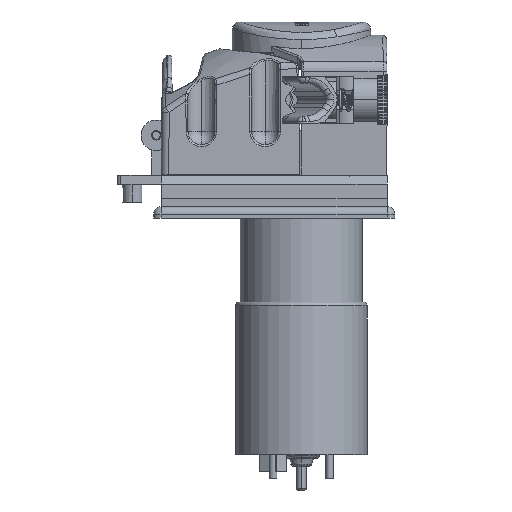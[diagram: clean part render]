
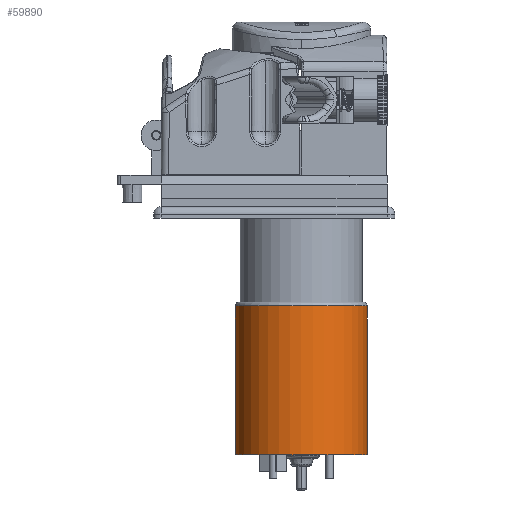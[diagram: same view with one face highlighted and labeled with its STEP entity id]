
A CAD part, left-side view. The second image highlights one B-rep face of the part: STEP entity #59890.
In plain terms, the highlighted cylindrical face has radius 17.25 mm (diameter 34.5 mm), a partial arc.
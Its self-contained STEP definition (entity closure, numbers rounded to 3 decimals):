
#68 = VERTEX_POINT ( 'NONE', #31784 ) ;
#1414 = VERTEX_POINT ( 'NONE', #49866 ) ;
#2458 = CARTESIAN_POINT ( 'NONE',  ( 0., 0., -70.15 ) ) ;
#3051 = ORIENTED_EDGE ( 'NONE', *, *, #40859, .T. ) ;
#4558 = FACE_OUTER_BOUND ( 'NONE', #29427, .T. ) ;
#5888 = ORIENTED_EDGE ( 'NONE', *, *, #37055, .T. ) ;
#7208 = DIRECTION ( 'NONE',  ( 0., 1., 0. ) ) ;
#7299 = DIRECTION ( 'NONE',  ( 0., 0., -1. ) ) ;
#10530 = VECTOR ( 'NONE', #17971, 1000. ) ;
#13060 = VERTEX_POINT ( 'NONE', #53342 ) ;
#13947 = LINE ( 'NONE', #26097, #24970 ) ;
#15670 = CYLINDRICAL_SURFACE ( 'NONE', #48965, 17.25 ) ;
#17971 = DIRECTION ( 'NONE',  ( 0., 0., -1. ) ) ;
#20279 = DIRECTION ( 'NONE',  ( 0., 0., -1. ) ) ;
#20315 = EDGE_CURVE ( 'NONE', #42048, #13060, #45127, .T. ) ;
#23733 = AXIS2_PLACEMENT_3D ( 'NONE', #2458, #35474, #7208 ) ;
#24970 = VECTOR ( 'NONE', #7299, 1000. ) ;
#26097 = CARTESIAN_POINT ( 'NONE',  ( 0., 17.25, -70.15 ) ) ;
#26341 = CARTESIAN_POINT ( 'NONE',  ( 0., -17.25, -31.15 ) ) ;
#28120 = CIRCLE ( 'NONE', #35315, 17.25 ) ;
#29427 = EDGE_LOOP ( 'NONE', ( #56090, #5888, #3051, #46528 ) ) ;
#31784 = CARTESIAN_POINT ( 'NONE',  ( 0., 17.25, -70.15 ) ) ;
#35315 = AXIS2_PLACEMENT_3D ( 'NONE', #48368, #20279, #53169 ) ;
#35474 = DIRECTION ( 'NONE',  ( 0., 0., -1. ) ) ;
#37055 = EDGE_CURVE ( 'NONE', #42048, #1414, #28120, .T. ) ;
#39381 = CIRCLE ( 'NONE', #23733, 17.25 ) ;
#40859 = EDGE_CURVE ( 'NONE', #1414, #68, #13947, .T. ) ;
#42048 = VERTEX_POINT ( 'NONE', #26341 ) ;
#42386 = CARTESIAN_POINT ( 'NONE',  ( 0., 0., -70.15 ) ) ;
#45127 = LINE ( 'NONE', #51553, #10530 ) ;
#46528 = ORIENTED_EDGE ( 'NONE', *, *, #47734, .F. ) ;
#47075 = DIRECTION ( 'NONE',  ( 0., 1., 0. ) ) ;
#47734 = EDGE_CURVE ( 'NONE', #13060, #68, #39381, .T. ) ;
#48368 = CARTESIAN_POINT ( 'NONE',  ( 0., 0., -31.15 ) ) ;
#48965 = AXIS2_PLACEMENT_3D ( 'NONE', #42386, #56355, #47075 ) ;
#49866 = CARTESIAN_POINT ( 'NONE',  ( 0., 17.25, -31.15 ) ) ;
#51553 = CARTESIAN_POINT ( 'NONE',  ( 0., -17.25, -70.15 ) ) ;
#53169 = DIRECTION ( 'NONE',  ( 0., -1., 0. ) ) ;
#53342 = CARTESIAN_POINT ( 'NONE',  ( 0., -17.25, -70.15 ) ) ;
#56090 = ORIENTED_EDGE ( 'NONE', *, *, #20315, .F. ) ;
#56355 = DIRECTION ( 'NONE',  ( 0., 0., -1. ) ) ;
#59890 = ADVANCED_FACE ( 'NONE', ( #4558 ), #15670, .T. ) ;
